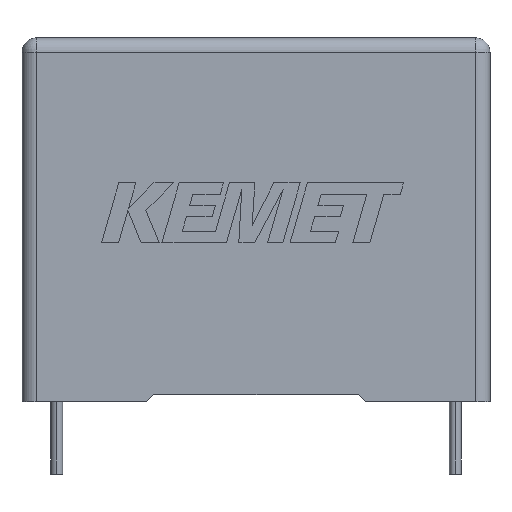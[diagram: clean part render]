
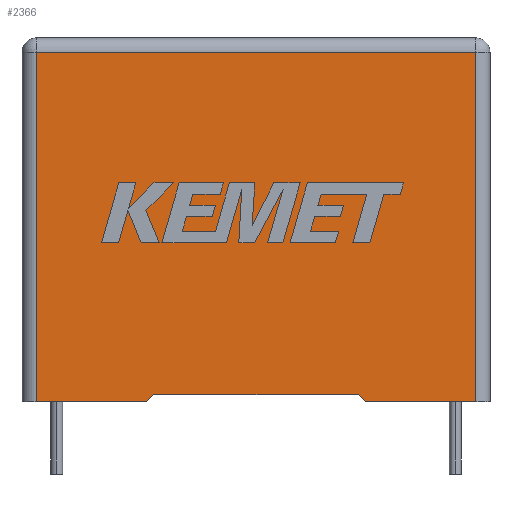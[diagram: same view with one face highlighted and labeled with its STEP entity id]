
A CAD part, top view. The second image highlights one B-rep face of the part: STEP entity #2366.
In plain terms, the highlighted planar face has unit normal (0, 0, 1).
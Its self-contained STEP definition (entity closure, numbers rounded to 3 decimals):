
#51 = AXIS2_PLACEMENT_3D ( 'NONE', #545, #1108, #1114 ) ;
#239 = ORIENTED_EDGE ( 'NONE', *, *, #2162, .T. ) ;
#289 = LINE ( 'NONE', #2008, #917 ) ;
#489 = VECTOR ( 'NONE', #2988, 1000. ) ;
#545 = CARTESIAN_POINT ( 'NONE',  ( 0., 0., 13.2 ) ) ;
#692 = VERTEX_POINT ( 'NONE', #1240 ) ;
#815 = EDGE_CURVE ( 'NONE', #2562, #692, #1612, .T. ) ;
#830 = PLANE ( 'NONE',  #51 ) ;
#884 = DIRECTION ( 'NONE',  ( -1., 0., 0. ) ) ;
#917 = VECTOR ( 'NONE', #884, 1000. ) ;
#965 = LINE ( 'NONE', #2314, #1319 ) ;
#1036 = LINE ( 'NONE', #1286, #2957 ) ;
#1108 = DIRECTION ( 'NONE',  ( 0., 0., -1. ) ) ;
#1114 = DIRECTION ( 'NONE',  ( -1., 0., 0. ) ) ;
#1170 = ORIENTED_EDGE ( 'NONE', *, *, #2844, .F. ) ;
#1198 = CARTESIAN_POINT ( 'NONE',  ( -7.55, -12.8, 13.2 ) ) ;
#1224 = CARTESIAN_POINT ( 'NONE',  ( 15.15, 0., 13.2 ) ) ;
#1240 = CARTESIAN_POINT ( 'NONE',  ( 7.05, -12.3, 13.2 ) ) ;
#1249 = CARTESIAN_POINT ( 'NONE',  ( -15.15, 11.3, 13.2 ) ) ;
#1286 = CARTESIAN_POINT ( 'NONE',  ( -16.15, -12.8, 13.2 ) ) ;
#1319 = VECTOR ( 'NONE', #2293, 1000. ) ;
#1377 = CARTESIAN_POINT ( 'NONE',  ( 15.15, -12.8, 13.2 ) ) ;
#1447 = VERTEX_POINT ( 'NONE', #2600 ) ;
#1509 = LINE ( 'NONE', #3057, #1636 ) ;
#1566 = DIRECTION ( 'NONE',  ( -1., 0., 0. ) ) ;
#1580 = ORIENTED_EDGE ( 'NONE', *, *, #1986, .T. ) ;
#1612 = LINE ( 'NONE', #2144, #489 ) ;
#1636 = VECTOR ( 'NONE', #3332, 1000. ) ;
#1857 = LINE ( 'NONE', #2402, #2869 ) ;
#1858 = ORIENTED_EDGE ( 'NONE', *, *, #3580, .F. ) ;
#1882 = VERTEX_POINT ( 'NONE', #2446 ) ;
#1907 = VECTOR ( 'NONE', #2055, 1000. ) ;
#1986 = EDGE_CURVE ( 'NONE', #3353, #2688, #289, .T. ) ;
#2008 = CARTESIAN_POINT ( 'NONE',  ( 0., 11.3, 13.2 ) ) ;
#2055 = DIRECTION ( 'NONE',  ( 0., 1., 0. ) ) ;
#2062 = CARTESIAN_POINT ( 'NONE',  ( 7.55, -12.8, 13.2 ) ) ;
#2144 = CARTESIAN_POINT ( 'NONE',  ( 7.55, -12.8, 13.2 ) ) ;
#2153 = VERTEX_POINT ( 'NONE', #1198 ) ;
#2162 = EDGE_CURVE ( 'NONE', #2906, #3353, #3110, .T. ) ;
#2293 = DIRECTION ( 'NONE',  ( 1., 0., 0. ) ) ;
#2314 = CARTESIAN_POINT ( 'NONE',  ( -16.15, -12.3, 13.2 ) ) ;
#2366 = ADVANCED_FACE ( 'NONE', ( #3046 ), #830, .F. ) ;
#2402 = CARTESIAN_POINT ( 'NONE',  ( -7.05, -12.3, 13.2 ) ) ;
#2446 = CARTESIAN_POINT ( 'NONE',  ( -15.15, -12.8, 13.2 ) ) ;
#2512 = DIRECTION ( 'NONE',  ( -0.707, -0.707, 0. ) ) ;
#2517 = LINE ( 'NONE', #2633, #2733 ) ;
#2554 = ORIENTED_EDGE ( 'NONE', *, *, #3005, .T. ) ;
#2562 = VERTEX_POINT ( 'NONE', #2062 ) ;
#2600 = CARTESIAN_POINT ( 'NONE',  ( -7.05, -12.3, 13.2 ) ) ;
#2633 = CARTESIAN_POINT ( 'NONE',  ( -15.15, 0., 13.2 ) ) ;
#2636 = ORIENTED_EDGE ( 'NONE', *, *, #3186, .F. ) ;
#2688 = VERTEX_POINT ( 'NONE', #1249 ) ;
#2723 = ORIENTED_EDGE ( 'NONE', *, *, #3206, .T. ) ;
#2733 = VECTOR ( 'NONE', #2935, 1000. ) ;
#2844 = EDGE_CURVE ( 'NONE', #2906, #2562, #1509, .T. ) ;
#2869 = VECTOR ( 'NONE', #2512, 1000. ) ;
#2906 = VERTEX_POINT ( 'NONE', #1377 ) ;
#2935 = DIRECTION ( 'NONE',  ( 0., -1., 0. ) ) ;
#2957 = VECTOR ( 'NONE', #1566, 1000. ) ;
#2988 = DIRECTION ( 'NONE',  ( -0.707, 0.707, 0. ) ) ;
#3005 = EDGE_CURVE ( 'NONE', #1447, #692, #965, .T. ) ;
#3025 = ORIENTED_EDGE ( 'NONE', *, *, #815, .F. ) ;
#3046 = FACE_OUTER_BOUND ( 'NONE', #3435, .T. ) ;
#3057 = CARTESIAN_POINT ( 'NONE',  ( 7.05, -12.8, 13.2 ) ) ;
#3091 = CARTESIAN_POINT ( 'NONE',  ( 15.15, 11.3, 13.2 ) ) ;
#3110 = LINE ( 'NONE', #1224, #1907 ) ;
#3186 = EDGE_CURVE ( 'NONE', #1447, #2153, #1857, .T. ) ;
#3206 = EDGE_CURVE ( 'NONE', #2688, #1882, #2517, .T. ) ;
#3332 = DIRECTION ( 'NONE',  ( -1., 0., 0. ) ) ;
#3353 = VERTEX_POINT ( 'NONE', #3091 ) ;
#3435 = EDGE_LOOP ( 'NONE', ( #1170, #239, #1580, #2723, #1858, #2636, #2554, #3025 ) ) ;
#3580 = EDGE_CURVE ( 'NONE', #2153, #1882, #1036, .T. ) ;
